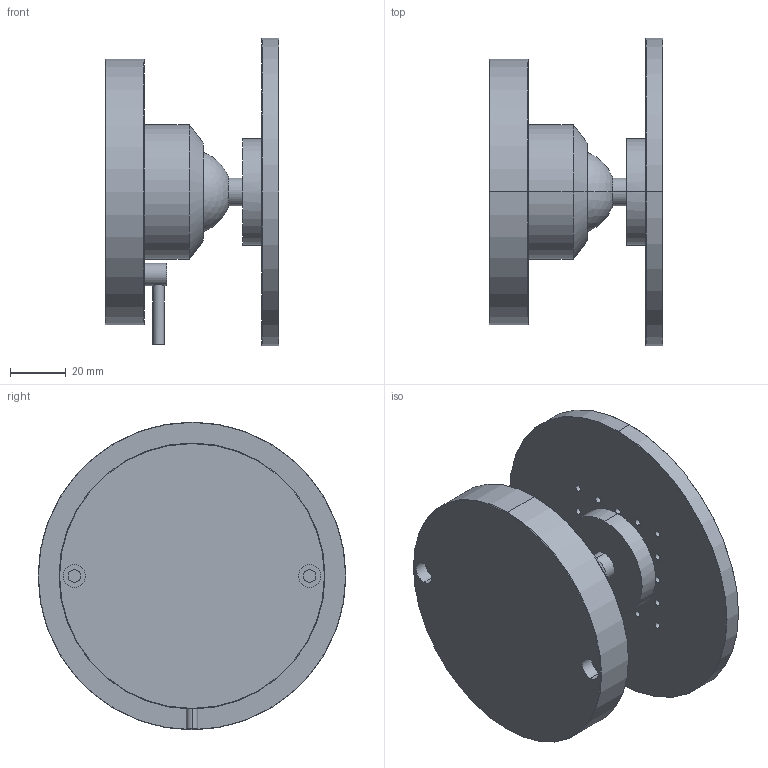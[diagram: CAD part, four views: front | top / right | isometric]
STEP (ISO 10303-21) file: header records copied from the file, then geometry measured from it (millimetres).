
FILE_DESCRIPTION (( 'STEP AP214' ), '1' );
FILE_NAME ('PR-SD92.STEP', '2023-01-01T02:03:07', ( '' ), ( '' ), 'SwSTEP 2.0', 'SolidWorks 2017', '' );
FILE_SCHEMA (( 'AUTOMOTIVE_DESIGN' ));
Length unit declared in the file: millimetre
Products named in the file (1): PR-SD92
Bounding box: 62 x 110 x 110 mm (x, y, z)
Volume: 202603.3 mm3; surface area: 45134 mm2
Topology: 1 solids, 1 shells, 426 faces, 1166 edges, 770 vertices
Faces by surface type: plane 254, bspline 84, cylinder 76, cone 10, sphere 2
Entity records: 17724 total; most frequent: CARTESIAN_POINT 6675, ORIENTED_EDGE 2332, DIRECTION 1858, EDGE_CURVE 1166, VECTOR 816, LINE 816, VERTEX_POINT 770, AXIS2_PLACEMENT_3D 521
